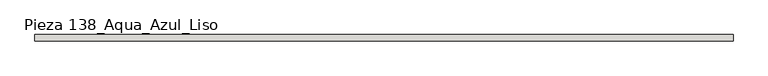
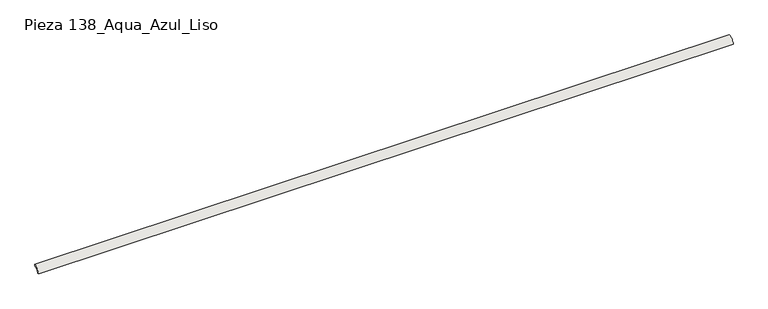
"""IFC4 building model written with IfcOpenShell, lengths in millimetres: slab geometry, ROSA GRES_138 : Pieza 138_Aqua_Azul_Liso."""

from ifc_helpers import new_model, si_unit, point, frame, frame_2d, origin, origin_2d, place, context, project, spatial, polyline, circle_curve, trimmed, segment, composite_curve, outline, extrude, source, transform, mapped, element, save


def pieza_138_aqua_azul_liso_3ee0c762(model_context):
    return source(origin(), model_context, "Body", "SweptSolid", [
        extrude(outline(composite_curve([segment(polyline([(0.0, 40.0), (0.0, 30.0265886)]), True, "CONTINUOUS"), segment(trimmed(circle_curve(frame_2d((-0.0044453, 0.0044453)), 30.0221435), [point((0.0, 30.0265886))], [point((-30.0265886, 0.0))], True, "CARTESIAN"), True, "CONTINUOUS"), segment(polyline([(-30.0265886, 0.0), (-40.0, 0.0)]), True, "CONTINUOUS"), segment(trimmed(circle_curve(origin_2d(), 40.0), [point((-40.0, 0.0))], [point((0.0, 40.0))], False, "CARTESIAN"), True, "CONTINUOUS")], self_intersect=False)), frame((0.0, 0.0, 0.0), z_axis=(1.0, 0.0, 0.0), x_axis=(0.0, 1.0, 0.0)), (0.0, 0.0, 1.0), 4446.5352734),
    ])


if __name__ == "__main__":
    model = new_model("IFC4")
    model_context = context("Model", 3, world=origin())
    ifc_project = project(units=[si_unit("LENGTHUNIT", "METRE", prefix="MILLI")], contexts=[model_context])
    site = spatial("IfcSite", under=ifc_project)
    building = spatial("IfcBuilding", under=site)
    placement = place(None, origin())
    pieza_138_aqua_azul_liso_shape = pieza_138_aqua_azul_liso_3ee0c762(model_context)
    element("IfcSlab", 1, ObjectType="ROSA GRES_138 : Pieza 138_Aqua_Azul_Liso", at=placement, inside=building, context=model_context, shape_type="MappedRepresentation", body=[
        mapped(pieza_138_aqua_azul_liso_shape, transform((0.0, 0.0, 0.0), x_axis=(1.0, 0.0, 0.0), y_axis=(0.0, 1.0, 0.0), z_axis=(0.0, 0.0, 1.0))),
    ])
    save(model, "model.ifc")
